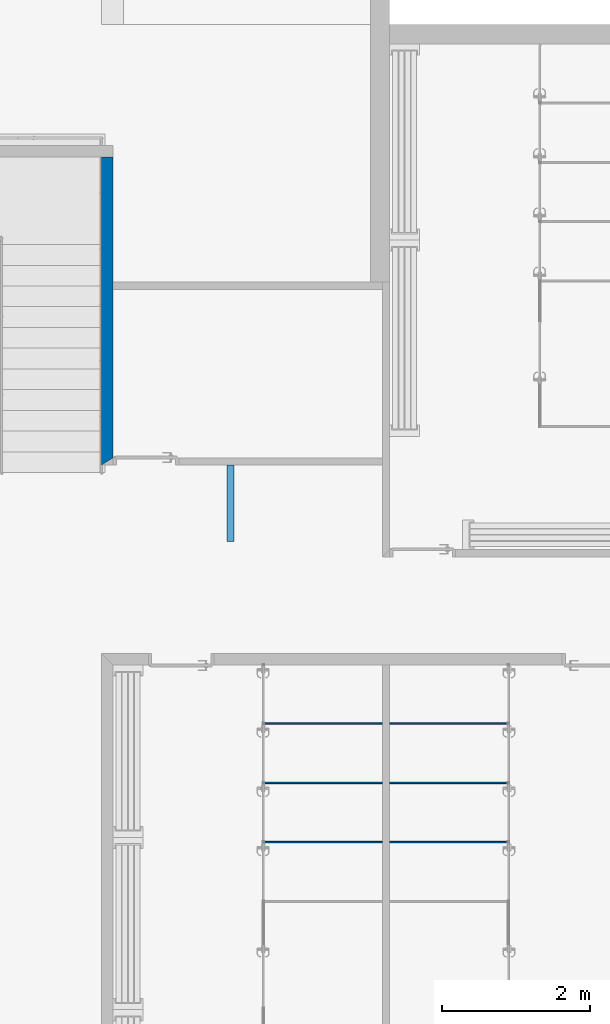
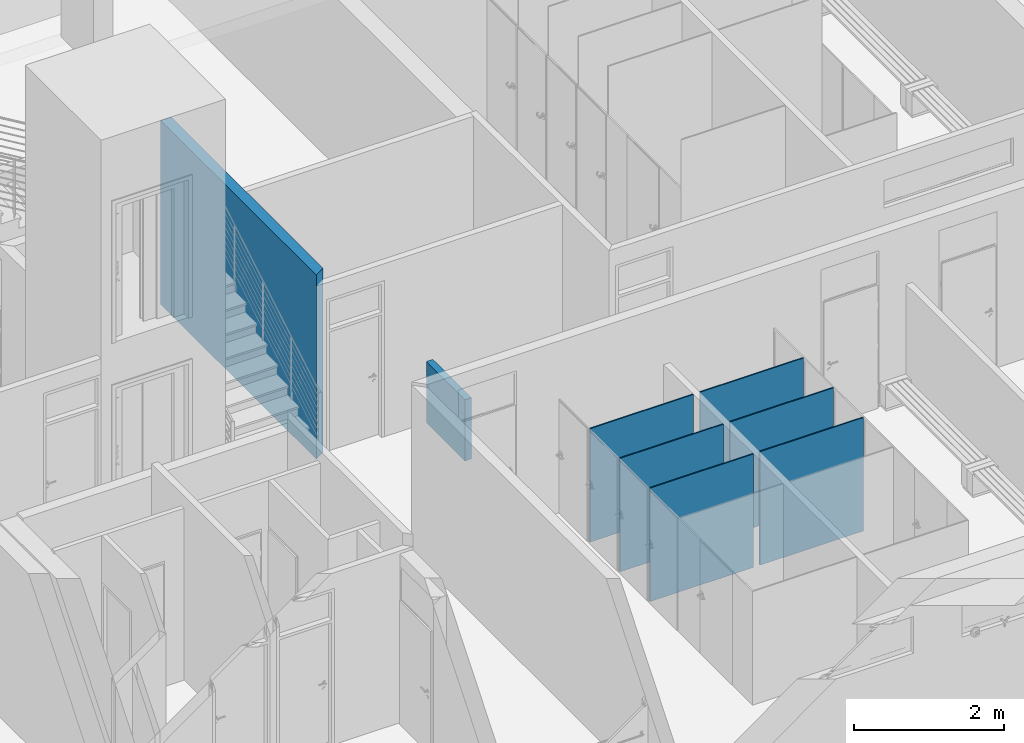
# One storey, part 16 of 45: 8 walls.
"""IFC2X3 building model written with IfcOpenShell, lengths in metres."""

from ifc_helpers import new_model, entity, si_unit, converted_unit, money_unit, direction, frame, origin_with_axes, place, context, subcontext, project, spatial, polyline, outline, extrude, material, layer, layer_set, layer_usage, type_object, element, save


model = new_model("IFC2X3")

# Units and contexts
model_context = context("Model", 3, precision=1e-05, world=origin_with_axes(), true_north=direction((0.0, 1.0)))
body_context = subcontext(model_context, "Body", "Model", "MODEL_VIEW")
ifc_project = project(units=[si_unit("LENGTHUNIT", "METRE"), si_unit("AREAUNIT", "SQUARE_METRE"), si_unit("VOLUMEUNIT", "CUBIC_METRE"), converted_unit("PLANEANGLEUNIT", "DEGREE", entity("IfcPlaneAngleMeasure", 0.0174532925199), si_unit("PLANEANGLEUNIT", "RADIAN"), dimensions=[0, 0, 0, 0, 0, 0, 0]), si_unit("SOLIDANGLEUNIT", "STERADIAN"), money_unit("EUR"), converted_unit("TIMEUNIT", "Year", entity("IfcTimeMeasure", 31556926.0), si_unit("TIMEUNIT", "SECOND"), dimensions=[0, 0, 0, 0, 0, 0, 0]), si_unit("MASSUNIT", "GRAM"), si_unit("THERMODYNAMICTEMPERATUREUNIT", "DEGREE_CELSIUS"), si_unit("LUMINOUSINTENSITYUNIT", "LUMEN")], contexts=[model_context])

# Site, building, storey
site_placement = place(None, origin_with_axes())
site = spatial("IfcSite", under=ifc_project, at=site_placement, Name="Site", CompositionType="ELEMENT")
building_placement = place(site_placement, origin_with_axes())
building = spatial("IfcBuilding", under=site, at=building_placement, Name="Bâtiment", CompositionType="ELEMENT")
storey_placement = place(building_placement, origin_with_axes())
storey = spatial("IfcBuildingStorey", under=building, at=storey_placement, Name="NIVEAU BAS GYMNASE", CompositionType="ELEMENT", Elevation=0.0)

# Walls
ifc_material_1 = material(Name="Hachure solide* 3962059836")
ifc_layer_1 = layer(ifc_material_1, 0.1, ventilated="UNKNOWN")
ifc_layer_set_1 = layer_set([ifc_layer_1], Name="Hachure solide* 3962059836 0.1")
ifc_layer_usage_1 = layer_usage(ifc_layer_set_1, "AXIS2", "POSITIVE", -0.1)
wall_type_1 = type_object("IfcWallType", Name="Hachure solide* 3962059836 100", PredefinedType="NOTDEFINED")
wall_1_placement = place(storey_placement, frame((53.633457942, 15.908815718, 0.0), z_axis=(0.0, 0.0, 1.0), x_axis=(0.0, -1.0, 0.0)))
element("IfcWallStandardCase", 1, at=wall_1_placement, inside=storey, type_object=wall_type_1, material=ifc_layer_usage_1, Name="Mur-006", context=body_context, shape_type="SweptSolid", body=[
    extrude(outline(polyline([(0.1, -0.1), (1.13077286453, -0.1), (1.13077286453, 0.0), (0.1, 0.0), (0.1, -0.1)])), origin_with_axes(), (0.0, 0.0, 1.0), 1.0),
])
ifc_material_2 = material(Name="Hachure solide* 3919599173")
ifc_layer_2 = layer(ifc_material_2, 0.16, ventilated="UNKNOWN")
ifc_layer_set_2 = layer_set([ifc_layer_2], Name="Hachure solide* 3919599173 0.16")
ifc_layer_usage_2 = layer_usage(ifc_layer_set_2, "AXIS2", "POSITIVE", 0.0)
wall_type_2 = type_object("IfcWallType", Name="Hachure solide* 3919599173 160", PredefinedType="NOTDEFINED")
wall_2_placement = place(storey_placement, frame((51.838457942, 19.968815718, 0.0), z_axis=(0.0, 0.0, 1.0), x_axis=(0.0, -1.0, 0.0)))
element("IfcWallStandardCase", 2, at=wall_2_placement, inside=storey, type_object=wall_type_2, material=ifc_layer_usage_2, Name="Mur-004", context=body_context, shape_type="SweptSolid", body=[
    extrude(outline(polyline([(0.0, 0.0), (4.16, 0.0), (4.06, 0.16), (0.0, 0.16), (0.0, 0.0)])), origin_with_axes(), (0.0, 0.0, 1.0), 3.0),
])
ifc_material_3 = material(Name="Hachure solide 3821565075")
ifc_layer_3 = layer(ifc_material_3, 0.02, ventilated="UNKNOWN")
ifc_layer_set_3 = layer_set([ifc_layer_3], Name="Hachure solide 3821565075 0.02")
ifc_layer_usage_3 = layer_usage(ifc_layer_set_3, "AXIS2", "POSITIVE", -0.01)
wall_type_3 = type_object("IfcWallType", Name="Hachure solide 3821565075 20", PredefinedType="NOTDEFINED")
wall_3_placement = place(storey_placement, frame((55.683457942, 12.3188157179, 0.0), z_axis=(0.0, 0.0, 1.0), x_axis=(-1.0, 0.0, 0.0)))
element("IfcWallStandardCase", 3, at=wall_3_placement, inside=storey, type_object=wall_type_3, material=ifc_layer_usage_3, Name="Mur-022", context=body_context, shape_type="SweptSolid", body=[
    extrude(outline(polyline([(0.05, -0.01), (1.6447553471, -0.01), (1.6447553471, 0.01), (0.05, 0.01), (0.05, -0.01)])), origin_with_axes(), (0.0, 0.0, 1.0), 1.85),
])
ifc_layer_usage_4 = layer_usage(ifc_layer_set_3, "AXIS2", "POSITIVE", -0.01)
wall_4_placement = place(storey_placement, frame((55.683457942, 12.3188157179, 0.0), z_axis=(0.0, 0.0, 1.0), x_axis=(1.0, 0.0, 0.0)))
element("IfcWallStandardCase", 4, at=wall_4_placement, inside=storey, type_object=wall_type_3, material=ifc_layer_usage_4, Name="Mur-022", context=body_context, shape_type="SweptSolid", body=[
    extrude(outline(polyline([(0.05, -0.01), (1.6447553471, -0.01), (1.6447553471, 0.01), (0.05, 0.01), (0.05, -0.01)])), origin_with_axes(), (0.0, 0.0, 1.0), 1.85),
])
ifc_layer_usage_5 = layer_usage(ifc_layer_set_3, "AXIS2", "POSITIVE", -0.01)
wall_5_placement = place(storey_placement, frame((55.683457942, 10.7188157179, 0.0), z_axis=(0.0, 0.0, 1.0), x_axis=(1.0, 0.0, 0.0)))
element("IfcWallStandardCase", 5, at=wall_5_placement, inside=storey, type_object=wall_type_3, material=ifc_layer_usage_5, Name="Mur-023", context=body_context, shape_type="SweptSolid", body=[
    extrude(outline(polyline([(0.05, -0.01), (1.6447553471, -0.01), (1.6447553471, 0.01), (0.05, 0.01), (0.05, -0.01)])), origin_with_axes(), (0.0, 0.0, 1.0), 1.85),
])
ifc_layer_usage_6 = layer_usage(ifc_layer_set_3, "AXIS2", "POSITIVE", -0.01)
wall_6_placement = place(storey_placement, frame((55.683457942, 10.7188157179, 0.0), z_axis=(0.0, 0.0, 1.0), x_axis=(-1.0, 0.0, 0.0)))
element("IfcWallStandardCase", 6, at=wall_6_placement, inside=storey, type_object=wall_type_3, material=ifc_layer_usage_6, Name="Mur-023", context=body_context, shape_type="SweptSolid", body=[
    extrude(outline(polyline([(0.05, -0.01), (1.6447553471, -0.01), (1.6447553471, 0.01), (0.05, 0.01), (0.05, -0.01)])), origin_with_axes(), (0.0, 0.0, 1.0), 1.85),
])
ifc_layer_usage_7 = layer_usage(ifc_layer_set_3, "AXIS2", "POSITIVE", -0.01)
wall_7_placement = place(storey_placement, frame((55.683457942, 11.518815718, 0.0), z_axis=(0.0, 0.0, 1.0), x_axis=(1.0, 0.0, 0.0)))
element("IfcWallStandardCase", 7, at=wall_7_placement, inside=storey, type_object=wall_type_3, material=ifc_layer_usage_7, Name="Mur-022", context=body_context, shape_type="SweptSolid", body=[
    extrude(outline(polyline([(0.05, -0.01), (1.6447553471, -0.01), (1.6447553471, 0.01), (0.05, 0.01), (0.05, -0.01)])), origin_with_axes(), (0.0, 0.0, 1.0), 1.85),
])
ifc_layer_usage_8 = layer_usage(ifc_layer_set_3, "AXIS2", "POSITIVE", -0.01)
wall_8_placement = place(storey_placement, frame((55.683457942, 11.518815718, 0.0), z_axis=(0.0, 0.0, 1.0), x_axis=(-1.0, 0.0, 0.0)))
element("IfcWallStandardCase", 8, at=wall_8_placement, inside=storey, type_object=wall_type_3, material=ifc_layer_usage_8, Name="Mur-022", context=body_context, shape_type="SweptSolid", body=[
    extrude(outline(polyline([(0.05, -0.01), (1.6447553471, -0.01), (1.6447553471, 0.01), (0.05, 0.01), (0.05, -0.01)])), origin_with_axes(), (0.0, 0.0, 1.0), 1.85),
])

save(model, "model.ifc")
